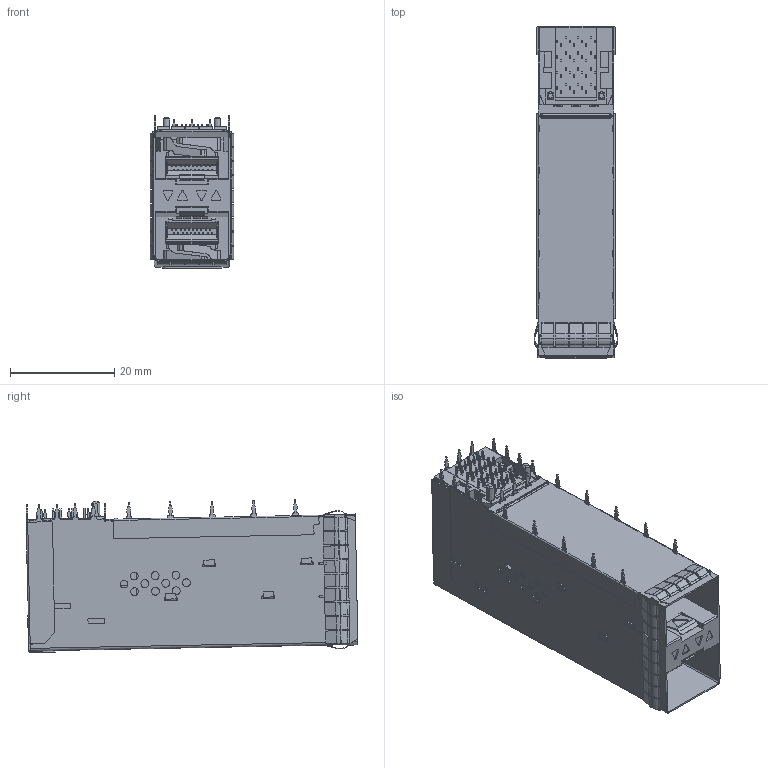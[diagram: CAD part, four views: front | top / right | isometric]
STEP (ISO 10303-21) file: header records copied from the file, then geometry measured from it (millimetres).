
FILE_DESCRIPTION((''),'2;1');
FILE_NAME('MSBR-1','2017-09-13T',('Administrator'),(''),'PRO/ENGINEER BY PARAMETRIC TECHNOLOGY CORPORATION, 2009440','PRO/ENGINEER BY PARAMETRIC TECHNOLOGY CORPORATION, 2009440','');
FILE_SCHEMA(('CONFIG_CONTROL_DESIGN'));
Products named in the file (1): MSBR-1
Bounding box: 16.06 x 63.74 x 29.41 mm (x, y, z)
Volume: 11170.1 mm3; surface area: 15246.6 mm2
Topology: 1 solids, 1 shells, 3267 faces, 9215 edges, 5991 vertices
Faces by surface type: plane 1971, cylinder 1232, bspline 58, cone 4, torus 2
Entity records: 109702 total; most frequent: CARTESIAN_POINT 23268, ORIENTED_EDGE 18430, DIRECTION 17936, EDGE_CURVE 9215, VECTOR 6202, LINE 6202, VERTEX_POINT 5991, AXIS2_PLACEMENT_3D 5867
